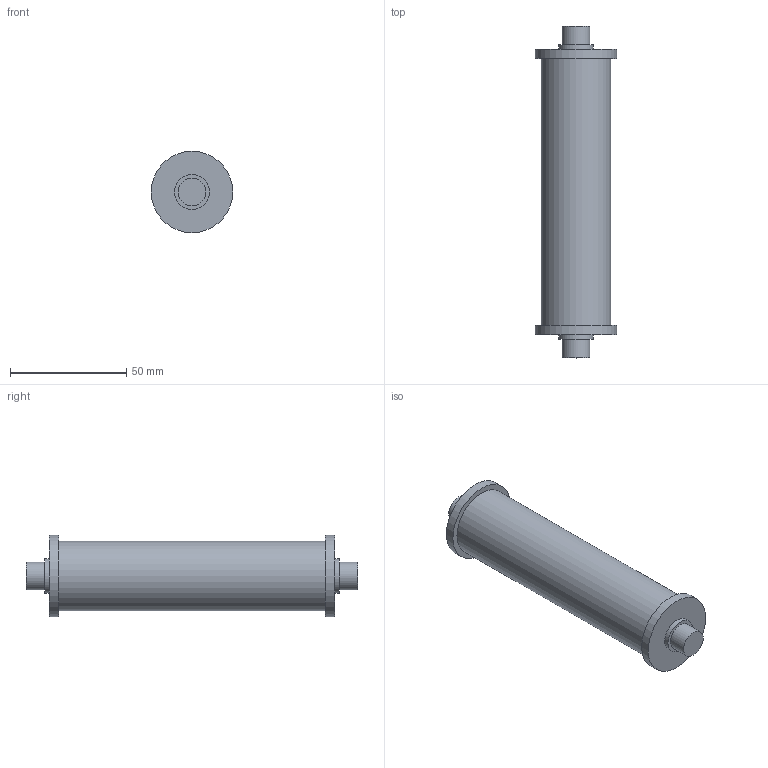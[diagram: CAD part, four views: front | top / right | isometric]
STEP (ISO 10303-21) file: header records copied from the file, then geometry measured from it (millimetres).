
FILE_DESCRIPTION(/* description */ ('STEP AP242','CAx-IF Rec.Pracs.---Representation and Presentation of Product Manufacturing Information (PMI)---4.0---2014-10-13','CAx-IF Rec.Pracs.---3D Tessellated Geometry---0.4---2014-09-14','2;1','CAx-IF Rec.Pracs.---User Defined Attributes---1.5---2016-08-15'),/* implementation_level */ '2;1');
FILE_NAME(/* name */ 'Full Assembly - Part 1 (17)',/* time_stamp */ '2025-11-03T04:00:12Z',/* author */ (''),/* organization */ (''),/* preprocessor_version */ 'ST-DEVELOPER v20',/* originating_system */ 'ONSHAPE BY PTC INC, 1.206',/* authorisation */ ' ');
FILE_SCHEMA (('AP242_MANAGED_MODEL_BASED_3D_ENGINEERING_MIM_LF { 1 0 10303 442 1 1 4 }'));
Length unit declared in the file: metre
Products named in the file (1): Part 1
Bounding box: 35 x 143 x 35 mm (x, y, z)
Volume: 91482.3 mm3; surface area: 14941.4 mm2
Topology: 1 solids, 1 shells, 15 faces, 23 edges, 16 vertices
Faces by surface type: plane 8, cylinder 7
Full cylindrical faces by diameter (mm): 11.95 x2, 14.95 x2, 30 x1, 35 x2
Entity records: 316 total; most frequent: DIRECTION 60, CARTESIAN_POINT 44, AXIS2_PLACEMENT_3D 30, ORIENTED_EDGE 28, EDGE_LOOP 28, FACE_BOUND 28, ADVANCED_FACE 15, EDGE_CURVE 14
